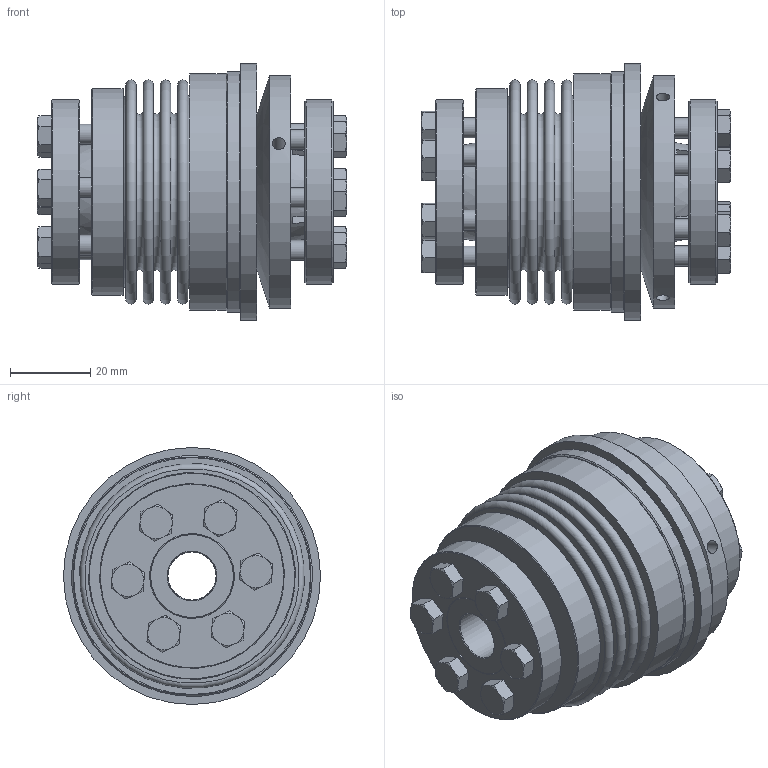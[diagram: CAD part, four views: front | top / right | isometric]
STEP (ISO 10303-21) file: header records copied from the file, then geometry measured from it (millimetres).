
FILE_DESCRIPTION( ( 'Unknown' ), '1' );
FILE_NAME( 'K:/Konstruktion/Korrigierte 3D Modelle/KBK-B-AA/KBK-BAA-30-78.stp', 'Unknown', ( 'Unknown' ), ( 'Unknown' ), 'PSStep 16.0.42', 'Unknown', ' ' );
FILE_SCHEMA( ( 'AUTOMOTIVE_DESIGN { 1 0 10303 214 1 1 1 1 }' ) );
Length unit declared in the file: millimetre
Products named in the file (18): Stellring 30_0; Druckring 30_0; Druckring L-A-30_0; L-A-30 Grundkörper_0; din_en_24017_m5x16_0; BA6-30; Hex Screw GradeC_DIN_ISO 4018 - M5 x 16-NN; BA30_Standard; DR30_Standard; A-30; Assem1; BK30_Standard_1; Flansch BK30
Assembly tree (27 placements, depth 4):
  Assem1
    BK30_Standard_1
    Flansch BK30
    BA6-30
      Hex Screw GradeC_DIN_ISO 4018 - M5 x 16-NN  x6
      BA30_Standard
      DR30_Standard
    A-30
      Stellring 30_0
        Stellring 30_0
      Druckring 30_0
        Druckring 30_0
      L-A-30 Grundkörper_0
        L-A-30 Grundkörper_0
      din_en_24017_m5x16_0  x6
        din_en_24017_m5x16_0
      Druckring L-A-30_0
        Druckring L-A-30_0
Bounding box: 76.95 x 64 x 64 mm (x, y, z)
Volume: 107849.8 mm3; surface area: 74426.8 mm2
Topology: 20 solids, 20 shells, 387 faces, 811 edges, 514 vertices
Faces by surface type: plane 180, cone 114, cylinder 69, torus 24
Full cylindrical faces by diameter (mm): 3.242 x3, 4.134 x6, 4.2 x6, 5 x12, 5.5 x12, 6.88 x6, 12 x2, 23.9 x1, 24.526 x1, 24.7 x1, 25 x2, 34 x1, 37 x1, 38 x2, 40 x1, 46 x2, 46.5 x2, 47.3 x2, 51.5 x1, 52 x1, 58 x1, 59 x1, 60 x1, 64 x1
Entity records: 6942 total; most frequent: CARTESIAN_POINT 1137, DIRECTION 914, ORIENTED_EDGE 568, AXIS2_PLACEMENT_3D 433, EDGE_LOOP 378, EDGE_CURVE 284, FACE_OUTER_BOUND 265, VERTEX_POINT 248
